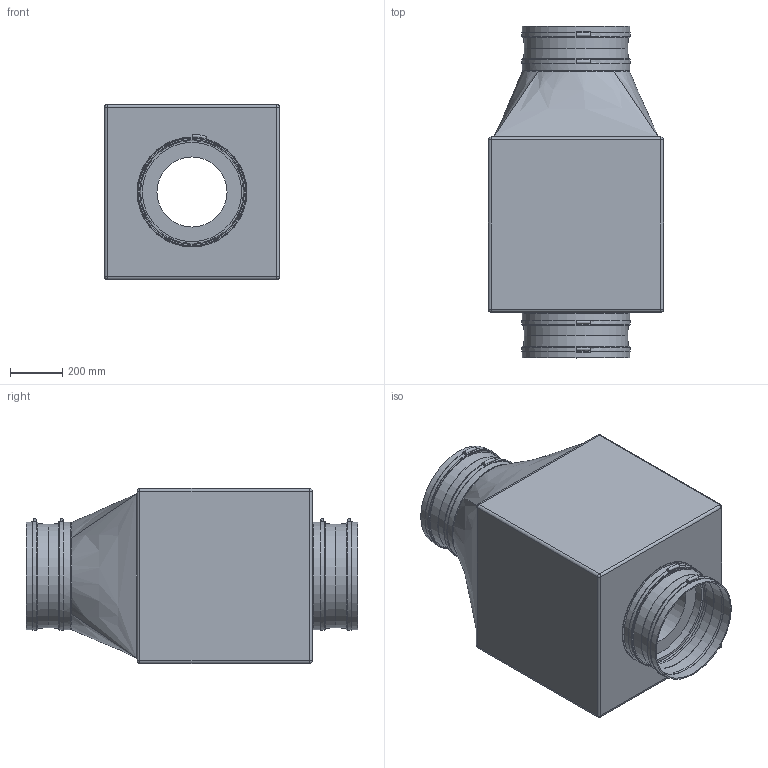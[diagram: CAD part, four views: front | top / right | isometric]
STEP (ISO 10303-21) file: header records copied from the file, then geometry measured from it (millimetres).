
FILE_DESCRIPTION(/* description */ (''),/* implementation_level */ '2;1');
FILE_NAME(/* name */ 'Z:\Output\GBW 400_4_Axial-05513-006.stp',/* time_stamp */ '2017-05-09T00:00:19+02:00',/* author */ ('jayeshpanchal'),/* organization */ (''),/* preprocessor_version */ 'ST-DEVELOPER v16.5',/* originating_system */ 'Autodesk Inventor 2017',/* authorisation */ '');
FILE_SCHEMA (('AUTOMOTIVE_DESIGN { 1 0 10303 214 3 1 1 }'));
Length unit declared in the file: millimetre
Products named in the file (1): GB-1
Bounding box: 670 x 1270 x 670 mm (x, y, z)
Volume: 267563411.2 mm3; surface area: 5326793.7 mm2
Topology: 7 solids, 7 shells, 121 faces, 228 edges, 134 vertices
Faces by surface type: cylinder 46, plane 43, bspline 12, cone 8, sphere 8, torus 4
Full cylindrical faces by diameter (mm): 268 x1, 380 x1, 400 x2, 401 x8, 410 x1, 411 x8, 417 x4, 420 x1
Entity records: 3413 total; most frequent: CARTESIAN_POINT 1056, DIRECTION 514, ORIENTED_EDGE 398, AXIS2_PLACEMENT_3D 225, EDGE_CURVE 191, EDGE_LOOP 182, VERTEX_POINT 131, FACE_OUTER_BOUND 121
